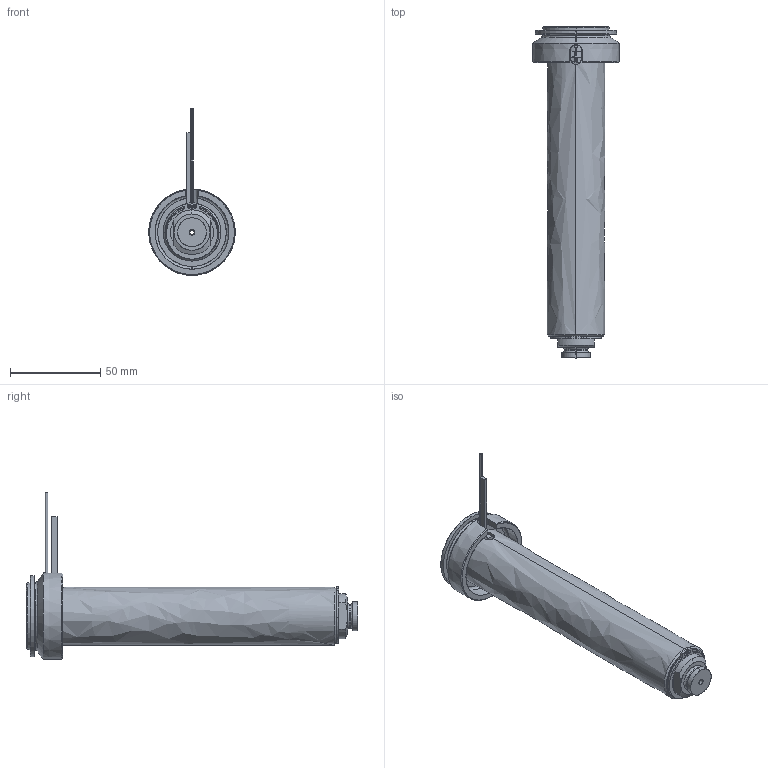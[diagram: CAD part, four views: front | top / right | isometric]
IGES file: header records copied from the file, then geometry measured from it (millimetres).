
Start section: SolidWorks IGES file using analytic representation for surfaces
Global section: file name: C:\Documents and Settings\ws-20\Desktop\TEMPORANEA\UGBE5004-M-A-3 [Ød-2.5 P-0 ØC-13].IGS; native system: SolidWorks 2012; preprocessor: SolidWorks 2012; author: ws-20; date: 120306.162353; units: millimetre
Bounding box: 48 x 184.25 x 92.62 mm (x, y, z)
Surface area: 65615.4 mm2 (no closed solid volume)
Topology: 0 solids, 0 shells, 109 faces, 2046 edges, 2046 vertices
Faces by surface type: revolution 61, bspline 48
